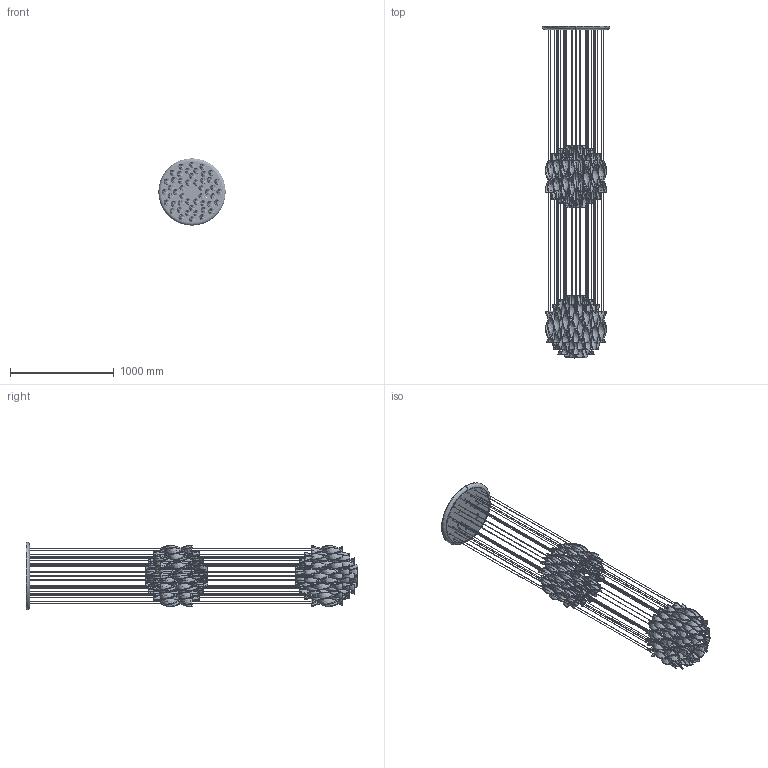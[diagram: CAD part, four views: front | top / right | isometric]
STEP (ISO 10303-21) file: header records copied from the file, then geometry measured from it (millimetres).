
FILE_DESCRIPTION (( 'STEP AP203' ), '1' );
FILE_NAME ('SPAURAØ60-2XXXXE27-PER 3D.STEP', '2024-05-29T15:59:22', ( '' ), ( '' ), 'SwSTEP 2.0', 'SolidWorks 2024', '' );
FILE_SCHEMA (( 'CONFIG_CONTROL_DESIGN' ));
Length unit declared in the file: millimetre
Products named in the file (64): CAVO ACCIAIO; MSPAURA60-ROSONE; AURA-VETRO 30 2 FORi; AURA-VETRO 60 2 FORI; SPAURA60-3-SFERE; MC-R007-IX-FE-00_MC-R007-IX-FE-00; SPAURAØ60-2XXXXE27-PER 3D; AURA-VETRO 53 2 FORi; MSPAURA60-DISCO DI COPERTURA; AURA-VETRO 60 1 FORO; AURA-VETRO 44 1 FORO; MC-D007-XX-FE-00_MC-D007-XX-FE-00; EMC-RO17; AURA-VETRO 30 1 FORO; AURA-VETRO 53 1 FORO; MSPAURA60-3E27; AURA-VETRO 44 2 FORI
Assembly tree (166 placements, depth 3):
  SPAURAØ60-2XXXXE27-PER 3D
    MSPAURA60-3E27
      MSPAURA60-ROSONE
      MSPAURA60-DISCO DI COPERTURA
      EMC-RO17
      MC-D007-XX-FE-00_MC-D007-XX-FE-00
      MC-R007-IX-FE-00_MC-R007-IX-FE-00
    SPAURA60-3-SFERE
      AURA-VETRO 60 2 FORI  x8
      AURA-VETRO 53 2 FORi  x8
      AURA-VETRO 44 2 FORI  x31
      AURA-VETRO 30 2 FORi  x16
      AURA-VETRO 60 1 FORO  x8
      AURA-VETRO 53 1 FORO  x8
      AURA-VETRO 44 1 FORO  x16
      AURA-VETRO 30 1 FORO  x16
      CAVO ACCIAIO
      CAVO ACCIAIO
      CAVO ACCIAIO
      CAVO ACCIAIO
      CAVO ACCIAIO
      CAVO ACCIAIO
      CAVO ACCIAIO
      CAVO ACCIAIO
      CAVO ACCIAIO
      CAVO ACCIAIO
      CAVO ACCIAIO
      CAVO ACCIAIO
      CAVO ACCIAIO
      CAVO ACCIAIO
      CAVO ACCIAIO
      CAVO ACCIAIO
      CAVO ACCIAIO
      CAVO ACCIAIO
      CAVO ACCIAIO
      CAVO ACCIAIO
      CAVO ACCIAIO
      CAVO ACCIAIO
      CAVO ACCIAIO
      CAVO ACCIAIO
      CAVO ACCIAIO
      CAVO ACCIAIO
      CAVO ACCIAIO
      CAVO ACCIAIO
      CAVO ACCIAIO
      CAVO ACCIAIO
      CAVO ACCIAIO
      CAVO ACCIAIO
      CAVO ACCIAIO
      CAVO ACCIAIO
      CAVO ACCIAIO
      CAVO ACCIAIO
      CAVO ACCIAIO
      CAVO ACCIAIO
      CAVO ACCIAIO
      CAVO ACCIAIO
      CAVO ACCIAIO
      CAVO ACCIAIO
      CAVO ACCIAIO
      CAVO ACCIAIO
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Bounding box: 650 x 3200 x 650 mm (x, y, z)
Volume: 20602398.9 mm3; surface area: 8019387.9 mm2
Topology: 164 solids, 164 shells, 1904 faces, 4388 edges, 2894 vertices
Faces by surface type: bspline 776, cylinder 612, plane 492, cone 20, torus 4
Entity records: 40404 total; most frequent: CARTESIAN_POINT 14654, DIRECTION 3588, ORIENTED_EDGE 3060, EDGE_CURVE 1530, AXIS2_PLACEMENT_3D 1508, VERTEX_POINT 1010, EDGE_LOOP 912, CIRCLE 766
